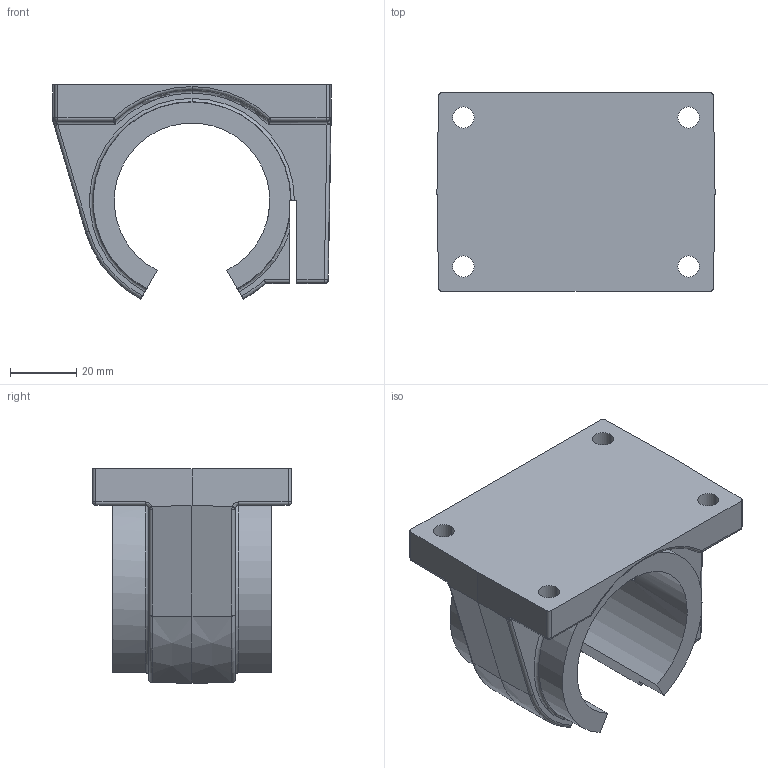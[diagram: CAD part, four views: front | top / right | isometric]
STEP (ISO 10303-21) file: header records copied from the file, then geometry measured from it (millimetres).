
FILE_DESCRIPTION (( 'STEP AP203' ), '1' );
FILE_NAME ('KGGOE68-30.step', '2020-03-10T16:17:15', ( '' ), ( '' ), 'SwSTEP 2.0', 'SolidWorks 2019', '' );
FILE_SCHEMA (( 'CONFIG_CONTROL_DESIGN' ));
Length unit declared in the file: millimetre
Products named in the file (2): KGGOE68-30
Bounding box: 83.98 x 60 x 64.7 mm (x, y, z)
Volume: 111779.8 mm3; surface area: 30783.3 mm2
Topology: 1 solids, 1 shells, 143 faces, 362 edges, 214 vertices
Faces by surface type: cylinder 56, plane 36, torus 18, bspline 12, cone 11, sphere 10
Entity records: 4868 total; most frequent: CARTESIAN_POINT 1384, ORIENTED_EDGE 708, DIRECTION 706, EDGE_CURVE 354, AXIS2_PLACEMENT_3D 282, VERTEX_POINT 214, EDGE_LOOP 158, CIRCLE 149
